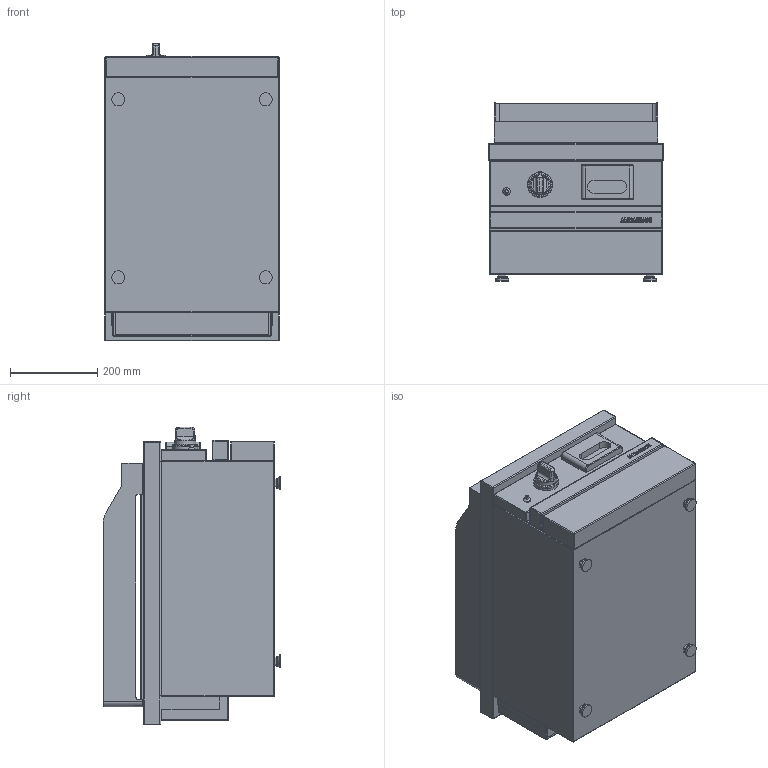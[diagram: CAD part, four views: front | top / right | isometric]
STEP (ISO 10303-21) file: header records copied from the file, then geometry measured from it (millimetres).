
FILE_DESCRIPTION((''),'2;1');
FILE_NAME('CSG410SLKC_EXPORT_STEP_ASM','2017-11-22T',('r.avril'),(''),'PRO/ENGINEER BY PARAMETRIC TECHNOLOGY CORPORATION, 2014200','PRO/ENGINEER BY PARAMETRIC TECHNOLOGY CORPORATION, 2014200','');
FILE_SCHEMA(('AP203_CONFIGURATION_CONTROLLED_3D_DESIGN_OF_MECHANICAL_PARTS_AND_ASSEMBLIES_MIM_LF { 1 0 10303 403 2 1 2 }'));
Length unit declared in the file: millimetre
Products named in the file (11): SNACKS_AMB_400_EXPORT_STEP; TABLE_410_GRILLADE; TABLE_410_GRILLADE_ASM; MANETTE_AMB_EXPORT_STEP; ALLUMEUR_EXPORT_STEP; TIROIR_GRILLADE_EXPORT_STEP; CEINTURE_PLAQUE_GRILLADE_400; 50288600; 50289100; 65070006_ASM; CSG410SLKC_EXPORT_STEP_ASM
Assembly tree (10 placements, depth 3):
  CSG410SLKC_EXPORT_STEP_ASM
    SNACKS_AMB_400_EXPORT_STEP
    TABLE_410_GRILLADE_ASM
      TABLE_410_GRILLADE
    MANETTE_AMB_EXPORT_STEP
    ALLUMEUR_EXPORT_STEP
    TIROIR_GRILLADE_EXPORT_STEP
    65070006_ASM
      CEINTURE_PLAQUE_GRILLADE_400
      50288600
      50289100
Bounding box: 400 x 407.33 x 682.5 mm (x, y, z)
Volume: 35954481.3 mm3; surface area: 2980768.3 mm2
Topology: 12 solids, 37 shells, 485 faces, 1798 edges, 1605 vertices
Faces by surface type: plane 207, cylinder 174, cone 42, sphere 38, torus 12, bspline 12
Entity records: 25946 total; most frequent: CARTESIAN_POINT 6227, DIRECTION 3097, ORIENTED_EDGE 2603, EDGE_CURVE 1540, VERTEX_POINT 1121, AXIS2_PLACEMENT_3D 1073, VECTOR 918, LINE 918
